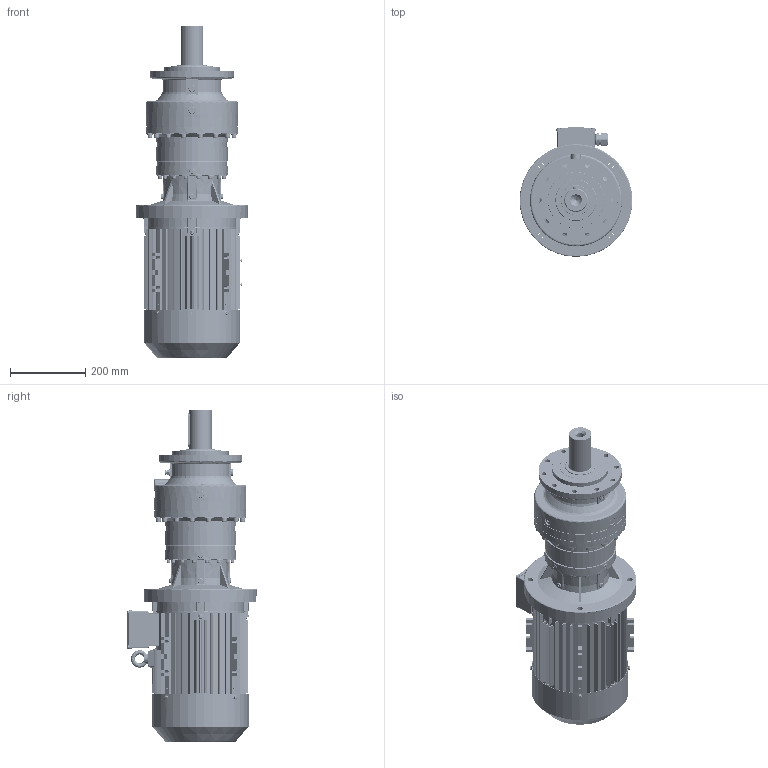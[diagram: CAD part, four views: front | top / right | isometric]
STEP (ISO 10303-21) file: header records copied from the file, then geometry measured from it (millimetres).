
FILE_DESCRIPTION (( 'STEP AP203' ), '1' );
FILE_NAME ('PVL-1503L-MX132S-4.STEP', '2019-05-13T09:59:13', ( '' ), ( '' ), 'SwSTEP 2.0', 'SolidWorks 2012', '' );
FILE_SCHEMA (( 'CONFIG_CONTROL_DESIGN' ));
Length unit declared in the file: millimetre
Products named in the file (36): PVL-1503L-MX132S-4; cross recessed pan head screws gb_GB_CROSS_SCREWS_TYPE1 M5X25-25  H type-N_1; MX3-132S_B5; cross recessed pan head screws gb_GB_CROSS_SCREWS_TYPE1 M5X8-8  H type-N_1; plain parallel keys_GB_CONNECTING_PIECE_KEYS_CSK 10X70_1; DMX-IE3 132S4 fan_1; hexagon socket head cap screws gb_GB_FASTENER_SCREWS_HSHCS M8X45-N; plain washers--product grade c gb_GB_FASTENER_WASHER_SMWC 4_1; circlips for shaft--type a large gb_GB_CONNECTING_PIECE_RING_RRA 29_1; cross recessed pan head screws gb_GB_CROSS_SCREWS_TYPE1 M4X6-6  H type-N_1; eyebolts gb_GB_FASTENER_SCREWS_FRS M10-S_1; DMX-IE3 132S4 grouding mark_1; DMX-IE3 132S4  oil seal_1; DMX-IE3 132S4  connection board_1; DMX-IE3 132S4  cable glands_1; DMX-IE3 132S4   gasket for terminal box cover_1; spring lock washers--normal type gb_GB_FASTENER_WASHER_SW 8_1; DMX-IE3 132S4   gasket for terminal box base_1; hexagon nuts grade c gb_GB_FASTENER_NUT_SNC1 M8-N_1; hexagon socket head cap screws gb_GB_FASTENER_SCREWS_HSHCS M8X35-N_1; hex flange bolts-heavy grade b gb_GB_FASTENER_BOLT_HFBB M5X10-N_1; cross recessed pan head screws gb_GB_CROSS_SCREWS_TYPE1 M5X10-10  H type-N_1; DMX-IE3 132S4   fan cover_1; DMX-IE3 132S4   terminal box cover_1; DMX-IE3 132S4  terminal box_1; DMX-IE3 132S4   rotor2_1; DMX-IE3 132S4   rotor1_1; DMX-IE3 132S4  flange B5; DMX-IE3 132S4  casing_1; DMX-IE3 132S4  flange B3_1; PNL_1503L_0_0_A13_B5_ML13A_FL3A_0_0_0_0_0_0_0_0_0_0_0_M1; FL3A_Varsayìlan; EK1503L_Varsayìlan; 11132B5_Varsayìlan; ML13A_Varsayìlan; P15_Varsayìlan
Assembly tree (67 placements, depth 3):
  PVL-1503L-MX132S-4
    PNL_1503L_0_0_A13_B5_ML13A_FL3A_0_0_0_0_0_0_0_0_0_0_0_M1
      P15_Varsayìlan
      11132B5_Varsayìlan
      ML13A_Varsayìlan
      EK1503L_Varsayìlan
      FL3A_Varsayìlan
    MX3-132S_B5
      DMX-IE3 132S4  casing_1
      DMX-IE3 132S4  flange B5
      DMX-IE3 132S4  flange B3_1
      DMX-IE3 132S4   rotor1_1
      DMX-IE3 132S4   rotor2_1
      DMX-IE3 132S4   terminal box cover_1
      DMX-IE3 132S4  terminal box_1
      DMX-IE3 132S4   fan cover_1
      hex flange bolts-heavy grade b gb_GB_FASTENER_BOLT_HFBB M5X10-N_1  x4
      cross recessed pan head screws gb_GB_CROSS_SCREWS_TYPE1 M5X10-10  H type-N_1  x4
      hexagon nuts grade c gb_GB_FASTENER_NUT_SNC1 M8-N_1  x7
      spring lock washers--normal type gb_GB_FASTENER_WASHER_SW 8_1  x8
      hexagon socket head cap screws gb_GB_FASTENER_SCREWS_HSHCS M8X35-N_1  x5
      DMX-IE3 132S4   gasket for terminal box base_1
      DMX-IE3 132S4  connection board_1
      DMX-IE3 132S4   gasket for terminal box cover_1
      DMX-IE3 132S4  oil seal_1
      DMX-IE3 132S4  cable glands_1  x2
      circlips for shaft--type a large gb_GB_CONNECTING_PIECE_RING_RRA 29_1
      DMX-IE3 132S4 grouding mark_1
      cross recessed pan head screws gb_GB_CROSS_SCREWS_TYPE1 M4X6-6  H type-N_1  x3
      eyebolts gb_GB_FASTENER_SCREWS_FRS M10-S_1
      plain washers--product grade c gb_GB_FASTENER_WASHER_SMWC 4_1
      hexagon socket head cap screws gb_GB_FASTENER_SCREWS_HSHCS M8X45-N  x3
      DMX-IE3 132S4 fan_1
      cross recessed pan head screws gb_GB_CROSS_SCREWS_TYPE1 M5X25-25  H type-N_1  x2
      cross recessed pan head screws gb_GB_CROSS_SCREWS_TYPE1 M5X8-8  H type-N_1  x4
      plain parallel keys_GB_CONNECTING_PIECE_KEYS_CSK 10X70_1
Bounding box: 300 x 345 x 883.8 mm (x, y, z)
Volume: 17462570.3 mm3; surface area: 2486517.5 mm2
Topology: 72 solids, 74 shells, 6211 faces, 16585 edges, 10690 vertices
Faces by surface type: plane 3440, cylinder 1662, bspline 565, cone 544
Entity records: 201369 total; most frequent: CARTESIAN_POINT 57324, ORIENTED_EDGE 29674, DIRECTION 28316, EDGE_CURVE 14837, AXIS2_PLACEMENT_3D 9797, VERTEX_POINT 9652, VECTOR 8722, LINE 8722
